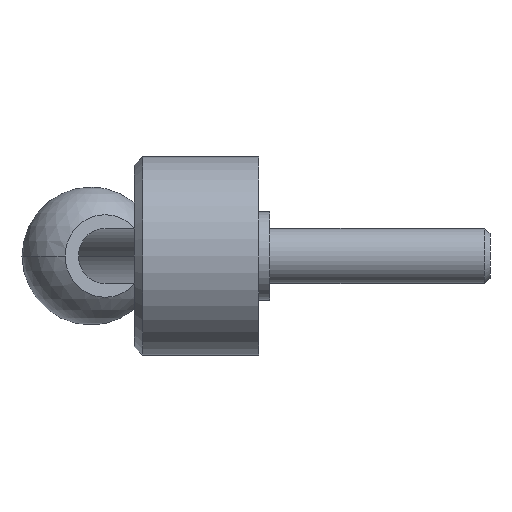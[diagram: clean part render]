
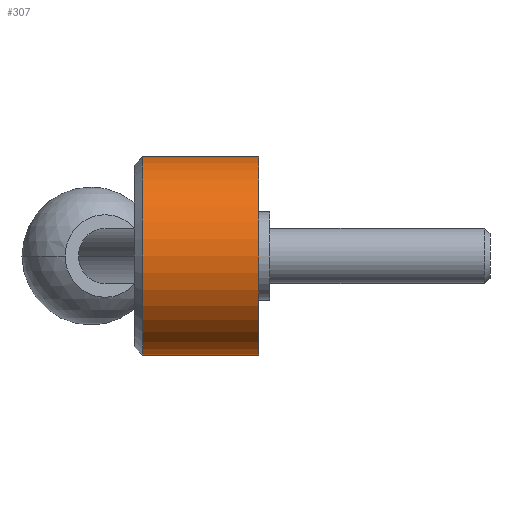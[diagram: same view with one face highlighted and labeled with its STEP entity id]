
A CAD part, left-side view. The second image highlights one B-rep face of the part: STEP entity #307.
In plain terms, the highlighted cylindrical face has radius 18 mm (diameter 36 mm), a partial arc.
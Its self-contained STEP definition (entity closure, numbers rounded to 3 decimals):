
#36 = DIRECTION ( 'NONE',  ( 0., -1., 0. ) ) ;
#43 = ORIENTED_EDGE ( 'NONE', *, *, #91, .T. ) ;
#54 = CARTESIAN_POINT ( 'NONE',  ( 0., 0., -18. ) ) ;
#67 = VERTEX_POINT ( 'NONE', #159 ) ;
#68 = CARTESIAN_POINT ( 'NONE',  ( 0., 0., 18. ) ) ;
#90 = ORIENTED_EDGE ( 'NONE', *, *, #261, .T. ) ;
#91 = EDGE_CURVE ( 'NONE', #777, #421, #352, .T. ) ;
#92 = VECTOR ( 'NONE', #348, 1000. ) ;
#159 = CARTESIAN_POINT ( 'NONE',  ( 0., 0., 18. ) ) ;
#222 = FACE_OUTER_BOUND ( 'NONE', #772, .T. ) ;
#244 = AXIS2_PLACEMENT_3D ( 'NONE', #459, #36, #717 ) ;
#259 = VECTOR ( 'NONE', #876, 1000. ) ;
#261 = EDGE_CURVE ( 'NONE', #685, #777, #430, .T. ) ;
#274 = DIRECTION ( 'NONE',  ( 0., 0., -1. ) ) ;
#307 = ADVANCED_FACE ( 'NONE', ( #222 ), #367, .T. ) ;
#348 = DIRECTION ( 'NONE',  ( 0., -1., 0. ) ) ;
#352 = LINE ( 'NONE', #634, #92 ) ;
#361 = CIRCLE ( 'NONE', #244, 18. ) ;
#367 = CYLINDRICAL_SURFACE ( 'NONE', #856, 18. ) ;
#385 = AXIS2_PLACEMENT_3D ( 'NONE', #403, #684, #741 ) ;
#403 = CARTESIAN_POINT ( 'NONE',  ( 0., 21.1, 0. ) ) ;
#421 = VERTEX_POINT ( 'NONE', #54 ) ;
#430 = CIRCLE ( 'NONE', #385, 18. ) ;
#459 = CARTESIAN_POINT ( 'NONE',  ( 0., 0., 0. ) ) ;
#499 = CARTESIAN_POINT ( 'NONE',  ( 0., 0., 0. ) ) ;
#553 = DIRECTION ( 'NONE',  ( 0., -1., 0. ) ) ;
#560 = ORIENTED_EDGE ( 'NONE', *, *, #866, .F. ) ;
#562 = CARTESIAN_POINT ( 'NONE',  ( 0., 21.1, 18. ) ) ;
#591 = EDGE_CURVE ( 'NONE', #685, #67, #693, .T. ) ;
#634 = CARTESIAN_POINT ( 'NONE',  ( 0., 0., -18. ) ) ;
#684 = DIRECTION ( 'NONE',  ( 0., -1., 0. ) ) ;
#685 = VERTEX_POINT ( 'NONE', #562 ) ;
#693 = LINE ( 'NONE', #68, #259 ) ;
#717 = DIRECTION ( 'NONE',  ( 0., 0., -1. ) ) ;
#741 = DIRECTION ( 'NONE',  ( 0., 0., 1. ) ) ;
#772 = EDGE_LOOP ( 'NONE', ( #853, #90, #43, #560 ) ) ;
#777 = VERTEX_POINT ( 'NONE', #784 ) ;
#784 = CARTESIAN_POINT ( 'NONE',  ( 0., 21.1, -18. ) ) ;
#853 = ORIENTED_EDGE ( 'NONE', *, *, #591, .F. ) ;
#856 = AXIS2_PLACEMENT_3D ( 'NONE', #499, #553, #274 ) ;
#866 = EDGE_CURVE ( 'NONE', #67, #421, #361, .T. ) ;
#876 = DIRECTION ( 'NONE',  ( 0., -1., 0. ) ) ;
